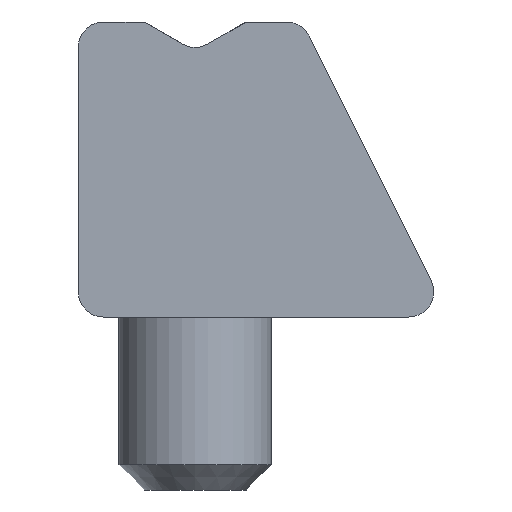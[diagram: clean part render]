
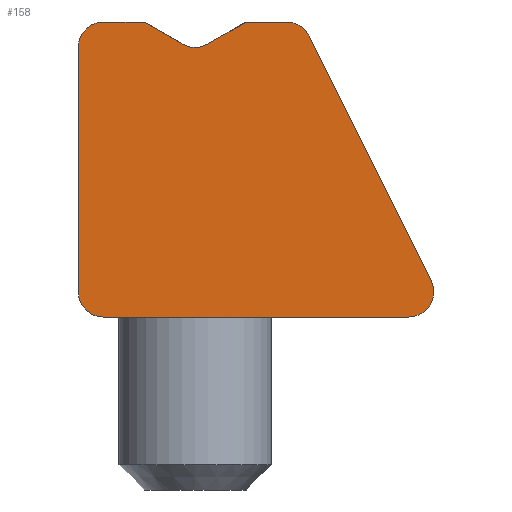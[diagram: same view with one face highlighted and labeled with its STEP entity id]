
A CAD part, left-side view. The second image highlights one B-rep face of the part: STEP entity #158.
In plain terms, the highlighted planar face has unit normal (-1, 0, 0) as drawn and (0, 0, -1) by its records, which use the part's own axes.
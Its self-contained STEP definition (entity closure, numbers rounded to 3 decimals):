
#158=ADVANCED_FACE('',(#289),#290,.T.);
#289=FACE_OUTER_BOUND('',#399,.T.);
#290=PLANE('',#400);
#399=EDGE_LOOP('',(#635,#636,#637,#638,#639,#640,#641,#642,#643,#644,#645,#646));
#400=AXIS2_PLACEMENT_3D('',#647,#648,#649);
#635=ORIENTED_EDGE('',*,*,#713,.F.);
#636=ORIENTED_EDGE('',*,*,#709,.F.);
#637=ORIENTED_EDGE('',*,*,#735,.F.);
#638=ORIENTED_EDGE('',*,*,#720,.F.);
#639=ORIENTED_EDGE('',*,*,#675,.F.);
#640=ORIENTED_EDGE('',*,*,#745,.F.);
#641=ORIENTED_EDGE('',*,*,#757,.F.);
#642=ORIENTED_EDGE('',*,*,#764,.F.);
#643=ORIENTED_EDGE('',*,*,#695,.F.);
#644=ORIENTED_EDGE('',*,*,#760,.F.);
#645=ORIENTED_EDGE('',*,*,#716,.F.);
#646=ORIENTED_EDGE('',*,*,#685,.F.);
#647=CARTESIAN_POINT('',(2.119,-2.458,-20.0));
#648=DIRECTION('',(0.0,0.0,-1.0));
#649=DIRECTION('',(1.0,0.0,0.0));
#675=EDGE_CURVE('',#777,#779,#780,.T.);
#685=EDGE_CURVE('',#795,#797,#798,.T.);
#695=EDGE_CURVE('',#813,#815,#816,.T.);
#709=EDGE_CURVE('',#838,#840,#841,.T.);
#713=EDGE_CURVE('',#840,#795,#845,.T.);
#716=EDGE_CURVE('',#797,#849,#850,.T.);
#720=EDGE_CURVE('',#779,#855,#856,.T.);
#735=EDGE_CURVE('',#855,#838,#878,.T.);
#745=EDGE_CURVE('',#890,#777,#892,.T.);
#757=EDGE_CURVE('',#904,#890,#906,.T.);
#760=EDGE_CURVE('',#849,#813,#909,.T.);
#764=EDGE_CURVE('',#815,#904,#914,.T.);
#777=VERTEX_POINT('',#927);
#779=VERTEX_POINT('',#930);
#780=CIRCLE('',#931,0.5);
#795=VERTEX_POINT('',#951);
#797=VERTEX_POINT('',#954);
#798=LINE('',#955,#956);
#813=VERTEX_POINT('',#975);
#815=VERTEX_POINT('',#978);
#816=LINE('',#979,#980);
#838=VERTEX_POINT('',#1008);
#840=VERTEX_POINT('',#1011);
#841=LINE('',#1012,#1013);
#845=CIRCLE('',#1018,0.5);
#849=VERTEX_POINT('',#1022);
#850=CIRCLE('',#1023,0.5);
#855=VERTEX_POINT('',#1030);
#856=LINE('',#1031,#1032);
#878=CIRCLE('',#1063,0.5);
#890=VERTEX_POINT('',#1079);
#892=LINE('',#1082,#1083);
#904=VERTEX_POINT('',#1107);
#906=LINE('',#1110,#1111);
#909=LINE('',#1115,#1116);
#914=CIRCLE('',#1121,0.5);
#927=CARTESIAN_POINT('',(-1.472,2.842,-20.0));
#930=CARTESIAN_POINT('',(-1.919,2.565,-20.0));
#931=AXIS2_PLACEMENT_3D('',#1135,#1136,#1137);
#951=CARTESIAN_POINT('',(2.619,-2.458,-20.0));
#954=CARTESIAN_POINT('',(2.619,2.342,-20.0));
#955=CARTESIAN_POINT('',(2.619,-2.458,-20.0));
#956=VECTOR('',#1147,1.0);
#975=CARTESIAN_POINT('',(1.319,2.842,-20.0));
#978=CARTESIAN_POINT('',(0.569,2.409,-20.0));
#979=CARTESIAN_POINT('',(1.319,2.842,-20.0));
#980=VECTOR('',#1159,1.0);
#1008=CARTESIAN_POINT('',(-3.872,-2.958,-20.0));
#1011=CARTESIAN_POINT('',(2.119,-2.958,-20.0));
#1012=CARTESIAN_POINT('',(-3.872,-2.958,-20.0));
#1013=VECTOR('',#1176,1.0);
#1018=AXIS2_PLACEMENT_3D('',#1181,#1182,#1183);
#1022=CARTESIAN_POINT('',(2.119,2.842,-20.0));
#1023=AXIS2_PLACEMENT_3D('',#1187,#1188,#1189);
#1030=CARTESIAN_POINT('',(-4.319,-2.235,-20.0));
#1031=CARTESIAN_POINT('',(-1.919,2.565,-20.0));
#1032=VECTOR('',#1192,1.0);
#1063=AXIS2_PLACEMENT_3D('',#1208,#1209,#1210);
#1079=CARTESIAN_POINT('',(-0.681,2.842,-20.0));
#1082=CARTESIAN_POINT('',(-0.681,2.842,-20.0));
#1083=VECTOR('',#1219,1.0);
#1107=CARTESIAN_POINT('',(0.069,2.409,-20.0));
#1110=CARTESIAN_POINT('',(0.069,2.409,-20.0));
#1111=VECTOR('',#1229,1.0);
#1115=CARTESIAN_POINT('',(2.119,2.842,-20.0));
#1116=VECTOR('',#1231,1.0);
#1121=AXIS2_PLACEMENT_3D('',#1235,#1236,#1237);
#1135=CARTESIAN_POINT('',(-1.472,2.342,-20.0));
#1136=DIRECTION('',(0.0,0.0,1.0));
#1137=DIRECTION('',(1.0,0.0,0.0));
#1147=DIRECTION('',(0.0,1.0,0.0));
#1159=DIRECTION('',(-0.866,-0.5,0.0));
#1176=DIRECTION('',(1.,0.,0.0));
#1181=CARTESIAN_POINT('',(2.119,-2.458,-20.0));
#1182=DIRECTION('',(0.0,0.0,1.0));
#1183=DIRECTION('',(1.0,0.0,0.0));
#1187=CARTESIAN_POINT('',(2.119,2.342,-20.0));
#1188=DIRECTION('',(0.0,0.0,1.0));
#1189=DIRECTION('',(1.0,0.0,0.0));
#1192=DIRECTION('',(-0.447,-0.894,0.0));
#1208=CARTESIAN_POINT('',(-3.872,-2.458,-20.0));
#1209=DIRECTION('',(0.0,0.0,1.0));
#1210=DIRECTION('',(1.0,0.0,0.0));
#1219=DIRECTION('',(-1.,0.,0.0));
#1229=DIRECTION('',(-0.866,0.5,0.0));
#1231=DIRECTION('',(-1.,0.,0.0));
#1235=CARTESIAN_POINT('',(0.319,2.842,-20.0));
#1236=DIRECTION('',(0.0,0.0,-1.0));
#1237=DIRECTION('',(-1.0,0.0,0.0));
